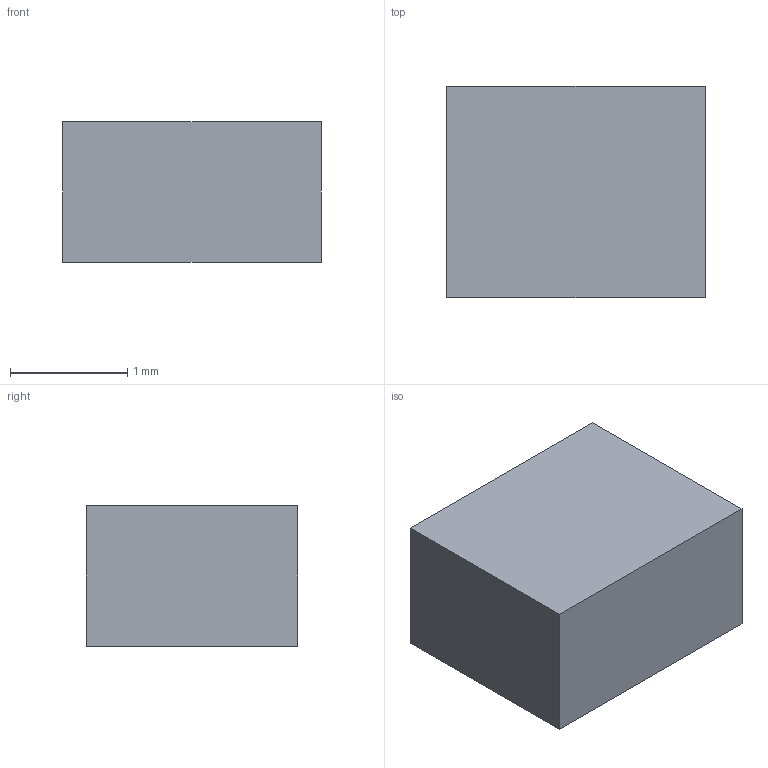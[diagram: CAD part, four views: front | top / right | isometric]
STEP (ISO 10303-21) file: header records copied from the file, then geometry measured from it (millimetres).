
FILE_DESCRIPTION(('Open CASCADE Model'),'2;1');
FILE_NAME('Open CASCADE Shape Model','2026-09-17T14:57:39',('Author'),( 'Open CASCADE'),'Open CASCADE STEP processor 7.8','Open CASCADE 7.8' ,'Unknown');
FILE_SCHEMA(('AUTOMOTIVE_DESIGN { 1 0 10303 214 1 1 1 1 }'));
Length unit declared in the file: millimetre
Products named in the file (1): Open CASCADE STEP translator 7.8 17
Bounding box: 2.2 x 1.8 x 1.2 mm (x, y, z)
Volume: 4.8 mm3; surface area: 17.5 mm2
Topology: 1 solids, 1 shells, 6 faces, 12 edges, 8 vertices
Faces by surface type: plane 6
Entity records: 322 total; most frequent: CARTESIAN_POINT 51, DIRECTION 50, LINE 36, VECTOR 36, ORIENTED_EDGE 24, PCURVE 24, DEFINITIONAL_REPRESENTATION 24, EDGE_CURVE 12
